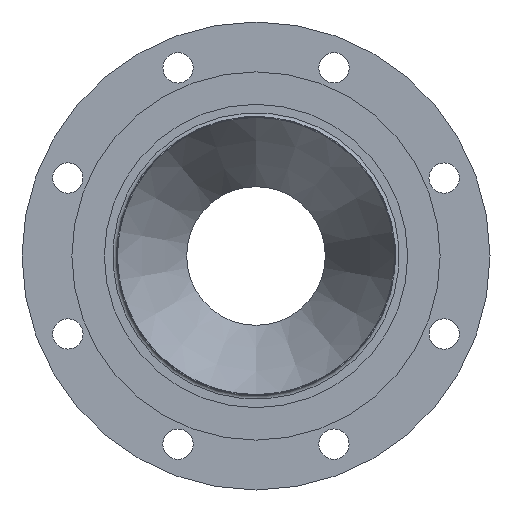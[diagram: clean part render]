
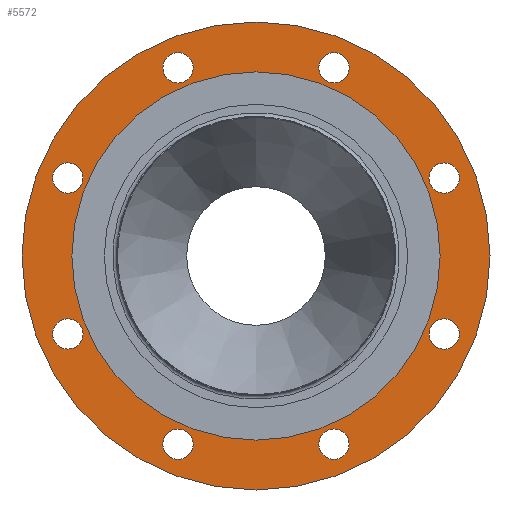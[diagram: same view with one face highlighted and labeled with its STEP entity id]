
A CAD part, front view. The second image highlights one B-rep face of the part: STEP entity #5572.
In plain terms, the highlighted planar face has unit normal (0, -1, 0) as drawn and (0, 1, 0) by its records, which use the part's own axes.
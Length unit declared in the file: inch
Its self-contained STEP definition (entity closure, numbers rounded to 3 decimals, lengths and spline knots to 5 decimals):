
#5233=CARTESIAN_POINT('',(-1.93891,0.9375,5.73715));
#5234=VERTEX_POINT('',#5233);
#5235=CARTESIAN_POINT('',(-2.24827,0.9375,5.42779));
#5236=DIRECTION('',(0.0,-1.0,0.0));
#5237=DIRECTION('',(0.707,0.0,0.707));
#5238=AXIS2_PLACEMENT_3D('',#5235,#5236,#5237);
#5239=CIRCLE('',#5238,0.4375);
#5240=EDGE_CURVE('',#5234,#5234,#5239,.T.);
#5261=CARTESIAN_POINT('',(-5.42779,0.9375,2.68577));
#5262=VERTEX_POINT('',#5261);
#5263=CARTESIAN_POINT('',(-5.42779,0.9375,2.24827));
#5264=DIRECTION('',(0.0,-1.0,0.0));
#5265=DIRECTION('',(0.0,0.0,1.0));
#5266=AXIS2_PLACEMENT_3D('',#5263,#5264,#5265);
#5267=CIRCLE('',#5266,0.4375);
#5268=EDGE_CURVE('',#5262,#5262,#5267,.T.);
#5289=CARTESIAN_POINT('',(-5.73715,0.9375,-1.93891));
#5290=VERTEX_POINT('',#5289);
#5291=CARTESIAN_POINT('',(-5.42779,0.9375,-2.24827));
#5292=DIRECTION('',(0.0,-1.0,0.0));
#5293=DIRECTION('',(-0.707,0.0,0.707));
#5294=AXIS2_PLACEMENT_3D('',#5291,#5292,#5293);
#5295=CIRCLE('',#5294,0.4375);
#5296=EDGE_CURVE('',#5290,#5290,#5295,.T.);
#5317=CARTESIAN_POINT('',(-2.68577,0.9375,-5.42779));
#5318=VERTEX_POINT('',#5317);
#5319=CARTESIAN_POINT('',(-2.24827,0.9375,-5.42779));
#5320=DIRECTION('',(0.0,-1.0,0.0));
#5321=DIRECTION('',(-1.0,0.0,0.0));
#5322=AXIS2_PLACEMENT_3D('',#5319,#5320,#5321);
#5323=CIRCLE('',#5322,0.4375);
#5324=EDGE_CURVE('',#5318,#5318,#5323,.T.);
#5345=CARTESIAN_POINT('',(1.93891,0.9375,-5.73715));
#5346=VERTEX_POINT('',#5345);
#5347=CARTESIAN_POINT('',(2.24827,0.9375,-5.42779));
#5348=DIRECTION('',(0.0,-1.0,0.0));
#5349=DIRECTION('',(-0.707,0.0,-0.707));
#5350=AXIS2_PLACEMENT_3D('',#5347,#5348,#5349);
#5351=CIRCLE('',#5350,0.4375);
#5352=EDGE_CURVE('',#5346,#5346,#5351,.T.);
#5373=CARTESIAN_POINT('',(5.42779,0.9375,-2.68577));
#5374=VERTEX_POINT('',#5373);
#5375=CARTESIAN_POINT('',(5.42779,0.9375,-2.24827));
#5376=DIRECTION('',(0.0,-1.0,0.0));
#5377=DIRECTION('',(0.0,0.0,-1.0));
#5378=AXIS2_PLACEMENT_3D('',#5375,#5376,#5377);
#5379=CIRCLE('',#5378,0.4375);
#5380=EDGE_CURVE('',#5374,#5374,#5379,.T.);
#5401=CARTESIAN_POINT('',(5.73715,0.9375,1.93891));
#5402=VERTEX_POINT('',#5401);
#5403=CARTESIAN_POINT('',(5.42779,0.9375,2.24827));
#5404=DIRECTION('',(0.0,-1.0,0.0));
#5405=DIRECTION('',(0.707,0.0,-0.707));
#5406=AXIS2_PLACEMENT_3D('',#5403,#5404,#5405);
#5407=CIRCLE('',#5406,0.4375);
#5408=EDGE_CURVE('',#5402,#5402,#5407,.T.);
#5429=CARTESIAN_POINT('',(2.68577,0.9375,5.42779));
#5430=VERTEX_POINT('',#5429);
#5431=CARTESIAN_POINT('',(2.24827,0.9375,5.42779));
#5432=DIRECTION('',(0.0,-1.0,0.0));
#5433=DIRECTION('',(1.0,0.0,0.0));
#5434=AXIS2_PLACEMENT_3D('',#5431,#5432,#5433);
#5435=CIRCLE('',#5434,0.4375);
#5436=EDGE_CURVE('',#5430,#5430,#5435,.T.);
#5457=CARTESIAN_POINT('',(5.3125,0.9375,0.));
#5458=VERTEX_POINT('',#5457);
#5459=CARTESIAN_POINT('',(0.0,0.9375,0.0));
#5460=DIRECTION('',(0.0,-1.0,0.0));
#5461=DIRECTION('',(-1.0,0.0,0.0));
#5462=AXIS2_PLACEMENT_3D('',#5459,#5460,#5461);
#5463=CIRCLE('',#5462,5.3125);
#5464=EDGE_CURVE('',#5458,#5458,#5463,.T.);
#5514=CARTESIAN_POINT('',(-6.75,0.9375,0.));
#5515=VERTEX_POINT('',#5514);
#5516=CARTESIAN_POINT('',(0.0,0.9375,0.0));
#5517=DIRECTION('',(0.0,-1.0,0.0));
#5518=DIRECTION('',(1.0,0.0,0.0));
#5519=AXIS2_PLACEMENT_3D('',#5516,#5517,#5518);
#5520=CIRCLE('',#5519,6.75);
#5521=EDGE_CURVE('',#5515,#5515,#5520,.T.);
#5537=CARTESIAN_POINT('',(0.0,0.9375,0.0));
#5538=DIRECTION('',(0.0,-1.0,0.0));
#5539=DIRECTION('',(0.0,0.0,-1.0));
#5540=AXIS2_PLACEMENT_3D('',#5537,#5538,#5539);
#5541=PLANE('',#5540);
#5542=ORIENTED_EDGE('',*,*,#5521,.F.);
#5543=EDGE_LOOP('',(#5542));
#5544=FACE_OUTER_BOUND('',#5543,.T.);
#5545=ORIENTED_EDGE('',*,*,#5240,.T.);
#5546=EDGE_LOOP('',(#5545));
#5547=FACE_BOUND('',#5546,.T.);
#5548=ORIENTED_EDGE('',*,*,#5268,.T.);
#5549=EDGE_LOOP('',(#5548));
#5550=FACE_BOUND('',#5549,.T.);
#5551=ORIENTED_EDGE('',*,*,#5296,.T.);
#5552=EDGE_LOOP('',(#5551));
#5553=FACE_BOUND('',#5552,.T.);
#5554=ORIENTED_EDGE('',*,*,#5324,.T.);
#5555=EDGE_LOOP('',(#5554));
#5556=FACE_BOUND('',#5555,.T.);
#5557=ORIENTED_EDGE('',*,*,#5352,.T.);
#5558=EDGE_LOOP('',(#5557));
#5559=FACE_BOUND('',#5558,.T.);
#5560=ORIENTED_EDGE('',*,*,#5380,.T.);
#5561=EDGE_LOOP('',(#5560));
#5562=FACE_BOUND('',#5561,.T.);
#5563=ORIENTED_EDGE('',*,*,#5408,.T.);
#5564=EDGE_LOOP('',(#5563));
#5565=FACE_BOUND('',#5564,.T.);
#5566=ORIENTED_EDGE('',*,*,#5436,.T.);
#5567=EDGE_LOOP('',(#5566));
#5568=FACE_BOUND('',#5567,.T.);
#5569=ORIENTED_EDGE('',*,*,#5464,.T.);
#5570=EDGE_LOOP('',(#5569));
#5571=FACE_BOUND('',#5570,.T.);
#5572=ADVANCED_FACE('',(#5544,#5547,#5550,#5553,#5556,#5559,#5562,#5565,#5568,#5571),#5541,.F.);
